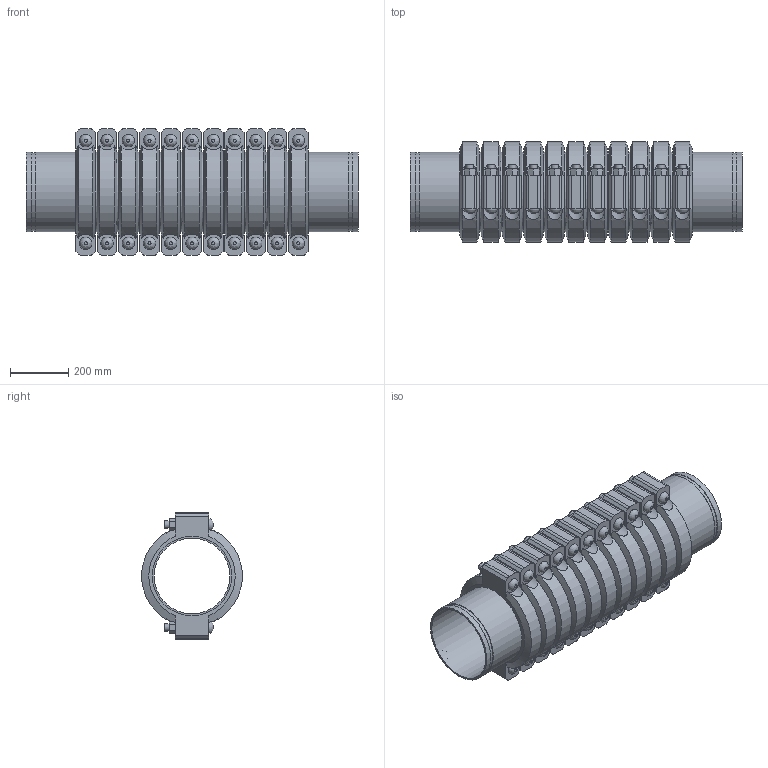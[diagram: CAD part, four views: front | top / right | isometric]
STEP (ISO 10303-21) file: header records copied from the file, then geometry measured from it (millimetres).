
FILE_DESCRIPTION(/* description */ ('VIC SS EXPANSION JOINT 11COUPLINGS NEUTRAL STYLE 155P (OGS) (POTABLE WATER) ','CAx-IF Rec.Pracs.---Representation and Presentation of Product Manufacturing Information (PMI)---4.0---2014-10-13'),/* implementation_level */ '2;1');
FILE_NAME(/* name */ 'C:\Users\kkamble\AppData\Roaming\Autodesk\ApplicationPlugins\Victaulic.Temp\A19\Victaulic_SS_Expansion Joint_Neutral_11 Couplings_Style 155P (OGS)-Potable Water_11 Coup_Neut_10 (250).stp',/* time_stamp */ '2021-07-16T16:28:48+06:00',/* author */ ('kkamble'),/* organization */ ('Victaulic'),/* preprocessor_version */ 'ST-DEVELOPER v17.2',/* originating_system */ 'Autodesk Inventor 2019',/* authorisation */ '');
FILE_SCHEMA (('AP242_MANAGED_MODEL_BASED_3D_ENGINEERING_MIM_LF { 1 0 10303 442 1 1 4 }'));
Length unit declared in the file: inch
Products named in the file (4): 155P-10.0; Nipple-10.0; Nipple-10.0_1; 077-10.0
Assembly tree (23 placements, depth 2):
  155P-10.0
    Nipple-10.0  x2
    Nipple-10.0_1  x10
    077-10.0  x11
Bounding box: 1139.95 x 344.9 x 435.1 mm (x, y, z)
Volume: 37536156.2 mm3; surface area: 5154327 mm2
Topology: 23 solids, 45 shells, 815 faces, 1955 edges, 1366 vertices
Faces by surface type: plane 468, cylinder 281, cone 44, bspline 22
Full cylindrical faces by diameter (mm): 25.4 x44, 27.432 x22, 260.35 x12, 264.16 x11, 268.275 x24, 273.05 x58
Entity records: 3169 total; most frequent: CARTESIAN_POINT 687, DIRECTION 501, ORIENTED_EDGE 410, AXIS2_PLACEMENT_3D 206, EDGE_CURVE 205, VERTEX_POINT 146, EDGE_LOOP 111, CIRCLE 96
